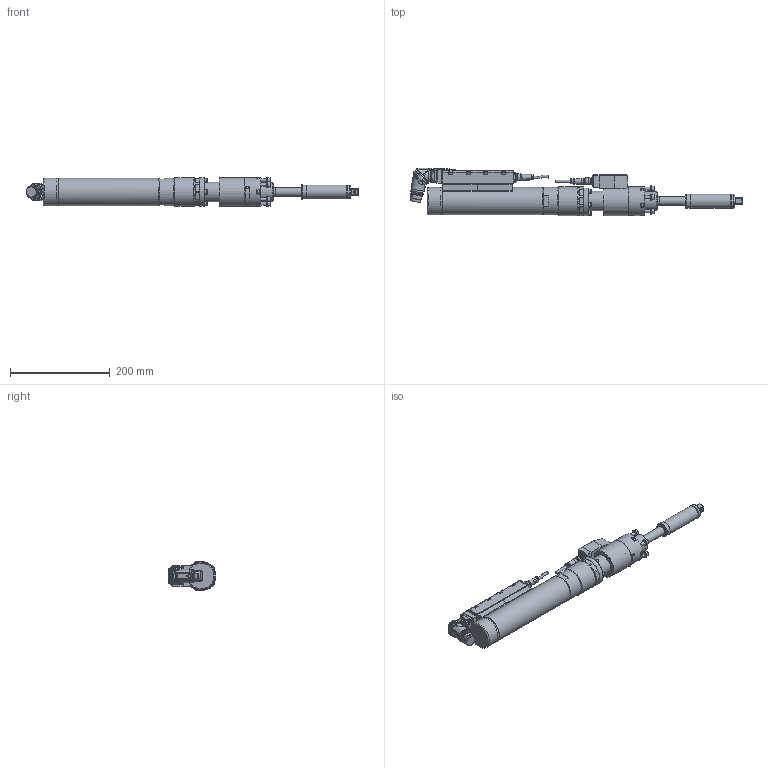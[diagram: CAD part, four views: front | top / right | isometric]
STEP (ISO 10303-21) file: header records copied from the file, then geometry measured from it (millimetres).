
FILE_DESCRIPTION (( 'STEP AP214' ), '1' );
FILE_NAME ('70082433_ESX206ZWRX140AZX250.STEP', '2016-11-14T10:06:30', ( 'admin' ), ( '' ), 'SwSTEP 2.0', 'SolidWorks 2014', '' );
FILE_SCHEMA (( 'AUTOMOTIVE_DESIGN' ));
Length unit declared in the file: millimetre
Products named in the file (11): 7002049_3; 70082371; 70082332; 70082303_ESX206_Standard_Winkel; 70082293_2; 70057493_Standard_winkel; 70057493_4; 70057493_3; 70057493_2; 70082303; 70082433_ESX206ZWRX140AZX250
Assembly tree (10 placements, depth 4):
  70082433_ESX206ZWRX140AZX250
    70082303_ESX206_Standard_Winkel
      70082303
      70057493_Standard_winkel
        70057493_2
        70057493_3
        70057493_4
      70082293_2
    70082332
    70082371
    7002049_3
Bounding box: 665.36 x 95.64 x 59.55 mm (x, y, z)
Volume: 1466414.1 mm3; surface area: 195946.2 mm2
Topology: 12 solids, 13 shells, 2585 faces, 6652 edges, 4312 vertices
Faces by surface type: plane 1271, cylinder 701, cone 273, bspline 264, torus 70, sphere 6
Full cylindrical faces by diameter (mm): 0.5 x7, 0.57 x14, 1.6 x3, 2 x3, 2.5 x1, 3 x4, 4.2 x11, 4.5 x1, 4.9 x2, 5 x37, 5.5 x12, 6 x6, 8.459 x2, 8.5 x10, 9 x13, 9.5 x1, 9.7 x1, 10 x5, 11.08 x1, 11.7 x1, 12 x6, 12.3 x1, 13 x1, 14 x3, 14.5 x2, 17.3 x1, 17.4 x1, 17.5 x2, 19.2 x1, 20 x2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
Entity records: 90159 total; most frequent: CARTESIAN_POINT 29765, ORIENTED_EDGE 12238, DIRECTION 10993, EDGE_CURVE 6119, VERTEX_POINT 4152, AXIS2_PLACEMENT_3D 4092, EDGE_LOOP 3193, FACE_OUTER_BOUND 2830
